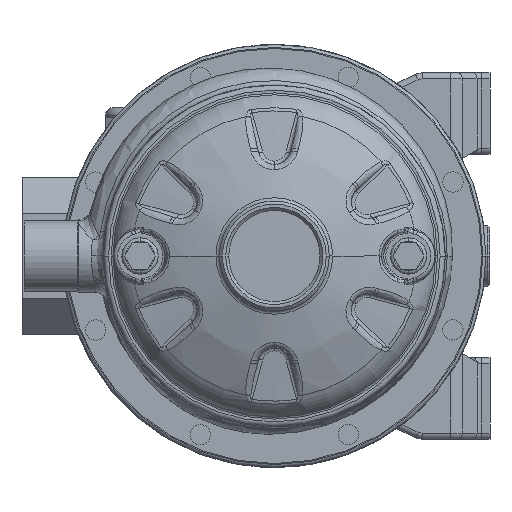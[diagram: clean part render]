
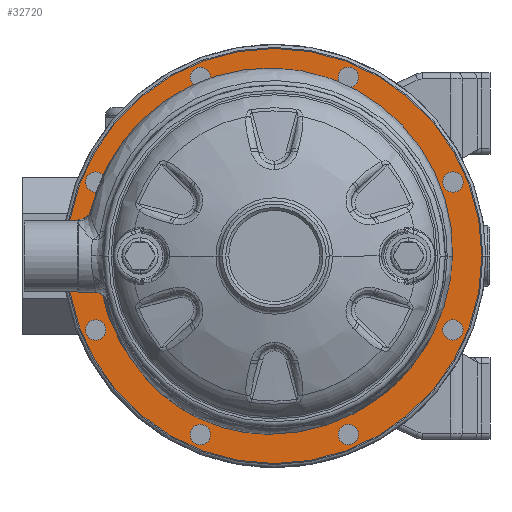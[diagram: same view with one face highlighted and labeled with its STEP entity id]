
A CAD part, left-side view. The second image highlights one B-rep face of the part: STEP entity #32720.
In plain terms, the highlighted planar face has unit normal (-1, 0, 0).
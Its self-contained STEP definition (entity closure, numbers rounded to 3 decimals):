
#24174=CARTESIAN_POINT('',(33.5,0.,
0.));
#24175=DIRECTION('',(1.,0.,0.));
#24176=DIRECTION('',(0.,-1.,0.));
#24177=AXIS2_PLACEMENT_3D('',#24174,#24175,#24176);
#24182=CARTESIAN_POINT('',(33.5,0.,
0.));
#24183=DIRECTION('',(1.,0.,0.));
#24184=DIRECTION('',(0.,1.,0.));
#24185=AXIS2_PLACEMENT_3D('',#24182,#24183,#24184);
#24190=CARTESIAN_POINT('',(33.5,0.,0.));
#24191=DIRECTION('',(-1.,0.,0.));
#24192=DIRECTION('',(0.,1.,0.));
#24193=AXIS2_PLACEMENT_3D('',#24190,#24191,#24192);
#24198=CARTESIAN_POINT('',(33.5,0.,0.));
#24199=DIRECTION('',(-1.,0.,0.));
#24200=DIRECTION('',(0.,-1.,0.));
#24201=AXIS2_PLACEMENT_3D('',#24198,#24199,#24200);
#24206=CARTESIAN_POINT('',(33.5,87.769,36.355));
#24207=DIRECTION('',(-1.,0.,0.));
#24208=DIRECTION('',(0.,0.,1.));
#24209=AXIS2_PLACEMENT_3D('',#24206,#24207,#24208);
#24214=CARTESIAN_POINT('',(33.5,87.769,36.355));
#24215=DIRECTION('',(-1.,0.,0.));
#24216=DIRECTION('',(0.,0.,-1.));
#24217=AXIS2_PLACEMENT_3D('',#24214,#24215,#24216);
#24222=CARTESIAN_POINT('',(33.5,36.355,87.769));
#24223=DIRECTION('',(-1.,0.,0.));
#24224=DIRECTION('',(0.,-0.707,0.707));
#24225=AXIS2_PLACEMENT_3D('',#24222,#24223,#24224);
#24230=CARTESIAN_POINT('',(33.5,36.355,87.769));
#24231=DIRECTION('',(-1.,0.,0.));
#24232=DIRECTION('',(0.,0.707,-0.707));
#24233=AXIS2_PLACEMENT_3D('',#24230,#24231,#24232);
#24238=CARTESIAN_POINT('',(33.5,-36.355,87.769));
#24239=DIRECTION('',(-1.,0.,0.));
#24240=DIRECTION('',(0.,-1.,0.));
#24241=AXIS2_PLACEMENT_3D('',#24238,#24239,#24240);
#24246=CARTESIAN_POINT('',(33.5,-36.355,87.769));
#24247=DIRECTION('',(-1.,0.,0.));
#24248=DIRECTION('',(0.,1.,0.));
#24249=AXIS2_PLACEMENT_3D('',#24246,#24247,#24248);
#24254=CARTESIAN_POINT('',(33.5,-87.769,36.355));
#24255=DIRECTION('',(-1.,0.,0.));
#24256=DIRECTION('',(0.,-0.707,-0.707));
#24257=AXIS2_PLACEMENT_3D('',#24254,#24255,#24256);
#24262=CARTESIAN_POINT('',(33.5,-87.769,36.355));
#24263=DIRECTION('',(-1.,0.,0.));
#24264=DIRECTION('',(0.,0.707,0.707));
#24265=AXIS2_PLACEMENT_3D('',#24262,#24263,#24264);
#24270=CARTESIAN_POINT('',(33.5,-87.769,-36.355));
#24271=DIRECTION('',(-1.,0.,0.));
#24272=DIRECTION('',(0.,0.,-1.));
#24273=AXIS2_PLACEMENT_3D('',#24270,#24271,#24272);
#24278=CARTESIAN_POINT('',(33.5,-87.769,-36.355));
#24279=DIRECTION('',(-1.,0.,0.));
#24280=DIRECTION('',(0.,0.,1.));
#24281=AXIS2_PLACEMENT_3D('',#24278,#24279,#24280);
#24286=CARTESIAN_POINT('',(33.5,-36.355,-87.769));
#24287=DIRECTION('',(-1.,0.,0.));
#24288=DIRECTION('',(0.,0.707,-0.707));
#24289=AXIS2_PLACEMENT_3D('',#24286,#24287,#24288);
#24294=CARTESIAN_POINT('',(33.5,-36.355,-87.769));
#24295=DIRECTION('',(-1.,0.,0.));
#24296=DIRECTION('',(0.,-0.707,0.707));
#24297=AXIS2_PLACEMENT_3D('',#24294,#24295,#24296);
#24302=CARTESIAN_POINT('',(33.5,36.355,-87.769));
#24303=DIRECTION('',(-1.,0.,0.));
#24304=DIRECTION('',(0.,1.,0.));
#24305=AXIS2_PLACEMENT_3D('',#24302,#24303,#24304);
#24310=CARTESIAN_POINT('',(33.5,36.355,-87.769));
#24311=DIRECTION('',(-1.,0.,0.));
#24312=DIRECTION('',(0.,-1.,0.));
#24313=AXIS2_PLACEMENT_3D('',#24310,#24311,#24312);
#24318=CARTESIAN_POINT('',(33.5,87.769,-36.355));
#24319=DIRECTION('',(-1.,0.,0.));
#24320=DIRECTION('',(0.,0.707,0.707));
#24321=AXIS2_PLACEMENT_3D('',#24318,#24319,#24320);
#24326=CARTESIAN_POINT('',(33.5,87.769,-36.355));
#24327=DIRECTION('',(-1.,0.,0.));
#24328=DIRECTION('',(0.,-0.707,-0.707));
#24329=AXIS2_PLACEMENT_3D('',#24326,#24327,#24328);
#31952=CARTESIAN_POINT('',(33.5,-86.8,
0.));
#31953=CARTESIAN_POINT('',(33.5,86.8,
0.));
#31954=VERTEX_POINT('',#31952);
#31955=VERTEX_POINT('',#31953);
#31956=CARTESIAN_POINT('',(33.5,102.,0.));
#31957=CARTESIAN_POINT('',(33.5,-102.,0.));
#31958=VERTEX_POINT('',#31956);
#31959=VERTEX_POINT('',#31957);
#31976=CARTESIAN_POINT('',(33.5,87.769,41.355));
#31977=CARTESIAN_POINT('',(33.5,87.769,31.355));
#31978=VERTEX_POINT('',#31976);
#31979=VERTEX_POINT('',#31977);
#32008=CARTESIAN_POINT('',(33.5,32.819,91.304));
#32009=VERTEX_POINT('',#32008);
#32010=CARTESIAN_POINT('',(33.5,39.89,84.233));
#32011=VERTEX_POINT('',#32010);
#32024=CARTESIAN_POINT('',(33.5,-41.355,87.769));
#32025=VERTEX_POINT('',#32024);
#32026=CARTESIAN_POINT('',(33.5,-31.355,87.769));
#32027=VERTEX_POINT('',#32026);
#32040=CARTESIAN_POINT('',(33.5,-91.304,32.819));
#32041=VERTEX_POINT('',#32040);
#32042=CARTESIAN_POINT('',(33.5,-84.233,39.89));
#32043=VERTEX_POINT('',#32042);
#32056=CARTESIAN_POINT('',(33.5,-87.769,-41.355));
#32057=VERTEX_POINT('',#32056);
#32058=CARTESIAN_POINT('',(33.5,-87.769,-31.355));
#32059=VERTEX_POINT('',#32058);
#32072=CARTESIAN_POINT('',(33.5,-32.819,-91.304));
#32073=VERTEX_POINT('',#32072);
#32074=CARTESIAN_POINT('',(33.5,-39.89,-84.233));
#32075=VERTEX_POINT('',#32074);
#32088=CARTESIAN_POINT('',(33.5,41.355,-87.769));
#32089=VERTEX_POINT('',#32088);
#32090=CARTESIAN_POINT('',(33.5,31.355,-87.769));
#32091=VERTEX_POINT('',#32090);
#32104=CARTESIAN_POINT('',(33.5,91.304,-32.819));
#32105=VERTEX_POINT('',#32104);
#32106=CARTESIAN_POINT('',(33.5,84.233,-39.89));
#32107=VERTEX_POINT('',#32106);
#32656=CARTESIAN_POINT('',(33.5,0.,0.));
#32657=DIRECTION('',(1.,0.,0.));
#32658=DIRECTION('',(0.,-1.,0.));
#32659=AXIS2_PLACEMENT_3D('',#32656,#32657,#32658);
#32660=PLANE('',#32659);
#32662=ORIENTED_EDGE('',*,*,#32661,.F.);
#32663=ORIENTED_EDGE('',*,*,#32646,.F.);
#32664=EDGE_LOOP('',(#32662,#32663));
#32665=FACE_OUTER_BOUND('',#32664,.F.);
#32667=ORIENTED_EDGE('',*,*,#32666,.F.);
#32669=ORIENTED_EDGE('',*,*,#32668,.F.);
#32670=EDGE_LOOP('',(#32667,#32669));
#32671=FACE_BOUND('',#32670,.F.);
#32673=ORIENTED_EDGE('',*,*,#32672,.T.);
#32675=ORIENTED_EDGE('',*,*,#32674,.T.);
#32676=EDGE_LOOP('',(#32673,#32675));
#32677=FACE_BOUND('',#32676,.F.);
#32679=ORIENTED_EDGE('',*,*,#32678,.T.);
#32681=ORIENTED_EDGE('',*,*,#32680,.T.);
#32682=EDGE_LOOP('',(#32679,#32681));
#32683=FACE_BOUND('',#32682,.F.);
#32685=ORIENTED_EDGE('',*,*,#32684,.T.);
#32687=ORIENTED_EDGE('',*,*,#32686,.T.);
#32688=EDGE_LOOP('',(#32685,#32687));
#32689=FACE_BOUND('',#32688,.F.);
#32691=ORIENTED_EDGE('',*,*,#32690,.T.);
#32693=ORIENTED_EDGE('',*,*,#32692,.T.);
#32694=EDGE_LOOP('',(#32691,#32693));
#32695=FACE_BOUND('',#32694,.F.);
#32697=ORIENTED_EDGE('',*,*,#32696,.T.);
#32699=ORIENTED_EDGE('',*,*,#32698,.T.);
#32700=EDGE_LOOP('',(#32697,#32699));
#32701=FACE_BOUND('',#32700,.F.);
#32703=ORIENTED_EDGE('',*,*,#32702,.T.);
#32705=ORIENTED_EDGE('',*,*,#32704,.T.);
#32706=EDGE_LOOP('',(#32703,#32705));
#32707=FACE_BOUND('',#32706,.F.);
#32709=ORIENTED_EDGE('',*,*,#32708,.T.);
#32711=ORIENTED_EDGE('',*,*,#32710,.T.);
#32712=EDGE_LOOP('',(#32709,#32711));
#32713=FACE_BOUND('',#32712,.F.);
#32715=ORIENTED_EDGE('',*,*,#32714,.T.);
#32717=ORIENTED_EDGE('',*,*,#32716,.T.);
#32718=EDGE_LOOP('',(#32715,#32717));
#32719=FACE_BOUND('',#32718,.F.);
#24178=CIRCLE('',#24177,86.8);
#24186=CIRCLE('',#24185,86.8);
#24194=CIRCLE('',#24193,102.);
#24202=CIRCLE('',#24201,102.);
#24210=CIRCLE('',#24209,5.);
#24218=CIRCLE('',#24217,5.);
#24226=CIRCLE('',#24225,5.);
#24234=CIRCLE('',#24233,5.);
#24242=CIRCLE('',#24241,5.);
#24250=CIRCLE('',#24249,5.);
#24258=CIRCLE('',#24257,5.);
#24266=CIRCLE('',#24265,5.);
#24274=CIRCLE('',#24273,5.);
#24282=CIRCLE('',#24281,5.);
#24290=CIRCLE('',#24289,5.);
#24298=CIRCLE('',#24297,5.);
#24306=CIRCLE('',#24305,5.);
#24314=CIRCLE('',#24313,5.);
#24322=CIRCLE('',#24321,5.);
#24330=CIRCLE('',#24329,5.);
#32646=EDGE_CURVE('',#31959,#31958,#24202,.T.);
#32661=EDGE_CURVE('',#31958,#31959,#24194,.T.);
#32666=EDGE_CURVE('',#31954,#31955,#24178,.T.);
#32668=EDGE_CURVE('',#31955,#31954,#24186,.T.);
#32672=EDGE_CURVE('',#31978,#31979,#24210,.T.);
#32674=EDGE_CURVE('',#31979,#31978,#24218,.T.);
#32678=EDGE_CURVE('',#32009,#32011,#24226,.T.);
#32680=EDGE_CURVE('',#32011,#32009,#24234,.T.);
#32684=EDGE_CURVE('',#32025,#32027,#24242,.T.);
#32686=EDGE_CURVE('',#32027,#32025,#24250,.T.);
#32690=EDGE_CURVE('',#32041,#32043,#24258,.T.);
#32692=EDGE_CURVE('',#32043,#32041,#24266,.T.);
#32696=EDGE_CURVE('',#32057,#32059,#24274,.T.);
#32698=EDGE_CURVE('',#32059,#32057,#24282,.T.);
#32702=EDGE_CURVE('',#32073,#32075,#24290,.T.);
#32704=EDGE_CURVE('',#32075,#32073,#24298,.T.);
#32708=EDGE_CURVE('',#32089,#32091,#24306,.T.);
#32710=EDGE_CURVE('',#32091,#32089,#24314,.T.);
#32714=EDGE_CURVE('',#32105,#32107,#24322,.T.);
#32716=EDGE_CURVE('',#32107,#32105,#24330,.T.);
#32720=ADVANCED_FACE('',(#32665,#32671,#32677,#32683,#32689,#32695,#32701,
#32707,#32713,#32719),#32660,.F.);
